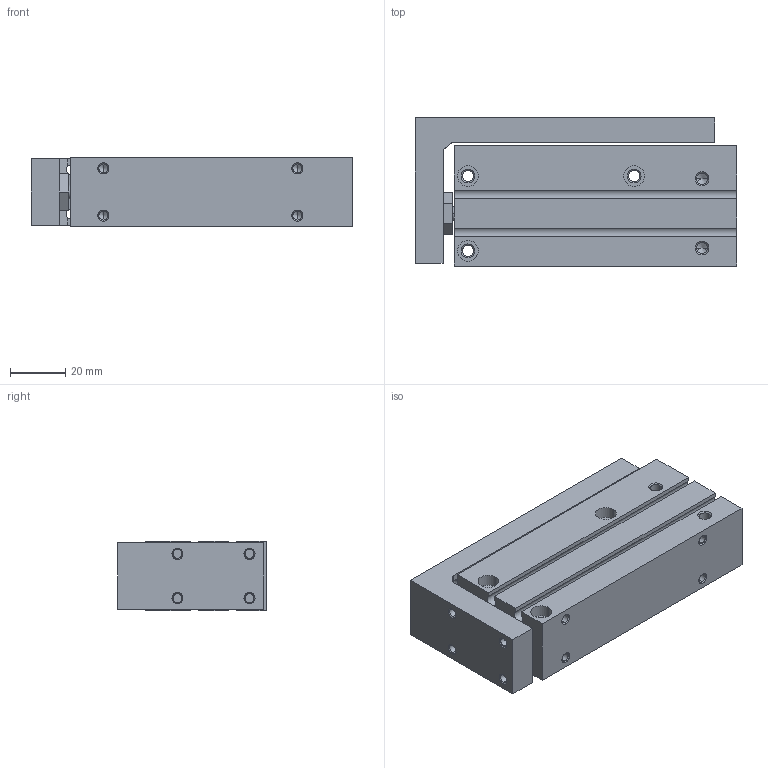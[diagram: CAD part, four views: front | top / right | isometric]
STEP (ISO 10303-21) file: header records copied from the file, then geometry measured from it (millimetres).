
FILE_DESCRIPTION (( 'STEP AP203' ), '1' );
FILE_NAME ('CXH16-60.STEP', '2020-04-16T18:12:59', ( '' ), ( '' ), 'SwSTEP 2.0', 'SolidWorks 2019', '' );
FILE_SCHEMA (( 'CONFIG_CONTROL_DESIGN' ));
Length unit declared in the file: millimetre
Products named in the file (1): CXH16-60
Bounding box: 116 x 53.5 x 25 mm (x, y, z)
Volume: 123908.8 mm3; surface area: 39805 mm2
Topology: 2 solids, 2 shells, 216 faces, 515 edges, 298 vertices
Faces by surface type: cone 92, cylinder 80, plane 44
Entity records: 6176 total; most frequent: DIRECTION 1141, CARTESIAN_POINT 1044, ORIENTED_EDGE 974, EDGE_CURVE 487, AXIS2_PLACEMENT_3D 441, VERTEX_POINT 298, EDGE_LOOP 265, VECTOR 259
